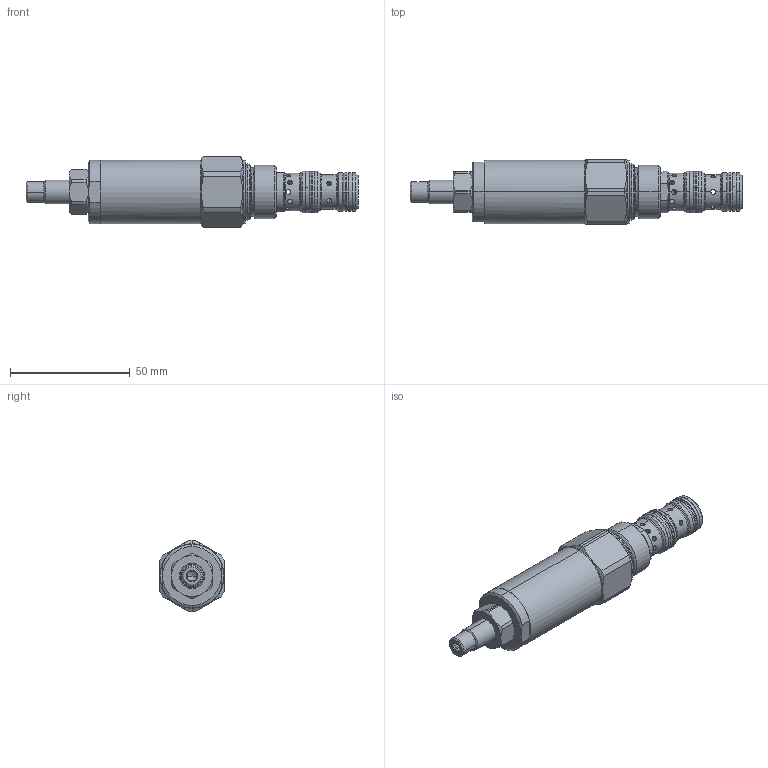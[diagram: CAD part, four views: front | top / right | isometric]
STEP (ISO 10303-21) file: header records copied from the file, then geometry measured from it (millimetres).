
FILE_DESCRIPTION (( 'STEP AP214' ), '1' );
FILE_NAME ('MDSPU10-200.STEP', '2017-09-05T08:53:01', ( '' ), ( '' ), 'SwSTEP 2.0', 'SolidWorks 2016', '' );
FILE_SCHEMA (( 'AUTOMOTIVE_DESIGN' ));
Length unit declared in the file: millimetre
Products named in the file (1): MDSPU10-200
Bounding box: 138.5 x 27 x 29.8 mm (x, y, z)
Volume: 51608.9 mm3; surface area: 13226.6 mm2
Topology: 5 solids, 6 shells, 330 faces, 807 edges, 471 vertices
Faces by surface type: cylinder 126, cone 86, plane 60, torus 34, bspline 24
Entity records: 14589 total; most frequent: CARTESIAN_POINT 3382, DIRECTION 1599, ORIENTED_EDGE 1582, EDGE_CURVE 791, AXIS2_PLACEMENT_3D 670, VERTEX_POINT 471, EDGE_LOOP 370, CIRCLE 363
